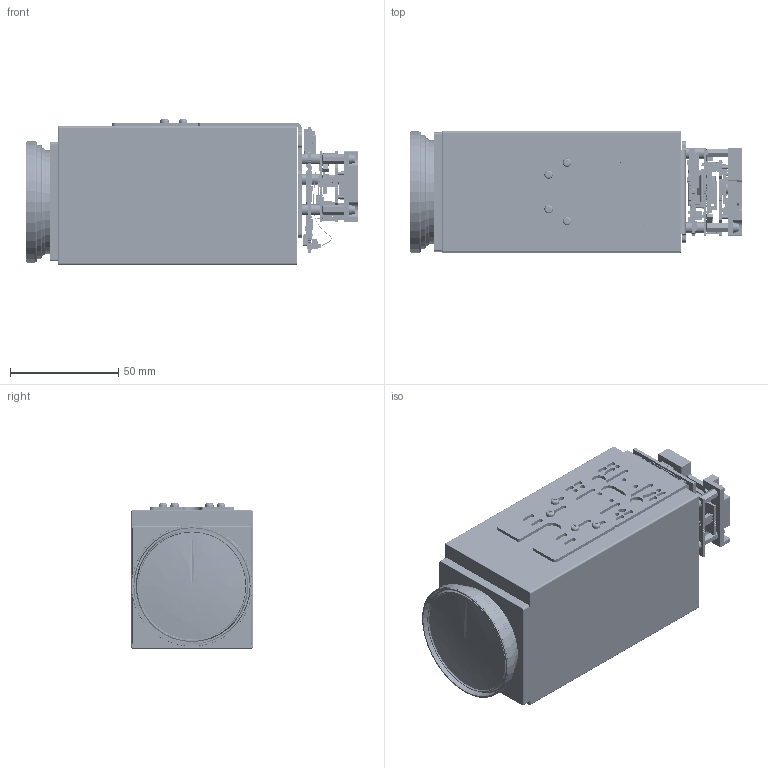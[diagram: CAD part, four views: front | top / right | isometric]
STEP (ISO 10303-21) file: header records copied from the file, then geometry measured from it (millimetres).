
FILE_DESCRIPTION( ( 'Unknown' ), '1' );
FILE_NAME( 'Q:/2003/Product3DCADModels/mm-ap29c01-0169-0101.stp', 'Unknown', ( 'Unknown' ), ( 'Unknown' ), 'PSStep 17.0.49', 'Unknown', ' ' );
FILE_SCHEMA( ( 'AUTOMOTIVE_DESIGN { 1 0 10303 214 1 1 1 1 }' ) );
Length unit declared in the file: millimetre
Products named in the file (689): Lead; Open_CASCADE_STEP_translator_6.8_1.2.1; Lead-2; Lead-3; Lead-6; Lead-7; Lead-5; Lead-1; Lead-4; 5993357248; body; Body; Open_CASCADE_STEP_translator_6.8_17.2.1; DEFAULT; DEFAULT-1; DEFAULT-2; 6453125152; Extruded; Pin_Shape; Open_CASCADE_STEP_translator_6.8_17.4.1; FRAME_RUG0010A; Open CASCADE STEP translator 6.8 16.15.1.1.1; Open CASCADE STEP translator 6.8 16.15.1.1.2; Open CASCADE STEP translator 6.8 16.15.1.1.3; Open CASCADE STEP translator 6.8 16.15.1.1.4; Open CASCADE STEP translator 6.8 16.15.1.1.5; Open CASCADE STEP translator 6.8 16.15.1.1.6; Open CASCADE STEP translator 6.8 16.15.1.1.7; Open CASCADE STEP translator 6.8 16.15.1.1.8; Open CASCADE STEP translator 6.8 16.15.1.1.9; Open CASCADE STEP translator 6.8 16.15.1.1.10; MYBSP01201ABF_step_Pin1; MYBSP01201ABF_step; User_Library-LED_1006_G; Grnn; Cut006; Cut005; #20139; Pad001; J107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
Assembly tree (1602 placements, depth 7):
  Assem1
    G-806-048H  x4
    G-875-322T  x3
    flexi-01
    EV9500L
    G-106-321A  x3
    heatsink-0389-02
    G-977-016Z  x3
    G-915-068V  x3
    G-080-752R  x3
    bracket-assy
      bracket-0378-02
      G-373-916V  x3
      G-513-075C  x3
    mm-ap29c01-0119-0301
      Board
        Open CASCADE STEP translator 6.8 16.1.1
          Open CASCADE STEP translator 6.8 16.1.1.1
      U9
        6292125808
          Thermal_Shape
          Open_CASCADE_STEP_translator_6.8_17.1
          Body
            Open_CASCADE_STEP_translator_6.8_17.2.1
          Pin_Shape  x24
            Open_CASCADE_STEP_translator_6.8_17.4.1
      R20
        6519727536
          Extruded
      L20
        CR1005-0402
        CR1005-0402
        CR1005-0402
        CR1005-0402
      C201
        6519727536
          Extruded
      C200
        6519727536
          Extruded
      C168
        CR1005-0402
        CR1005-0402
        CR1005-0402
        CR1005-0402
      U6
        6811100368
          Extruded
      R109
        6519727536
          Extruded
      R108
        6250716752
          Extruded
      C136
        6519727536
          Extruded
      R107
        6250716752
          Extruded
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Bounding box: 153.35 x 56 x 67.14 mm (x, y, z)
Volume: 451481.1 mm3; surface area: 79932.3 mm2
Topology: 1206 solids, 1207 shells, 19200 faces, 48357 edges, 31475 vertices
Faces by surface type: plane 15975, cylinder 2568, torus 176, sphere 176, revolution 140, cone 104, bspline 61
Full cylindrical faces by diameter (mm): 0.041 x1, 0.1 x184, 0.14 x1, 0.15 x1, 0.2 x2, 0.25 x1, 0.4 x2, 0.5 x1, 0.519 x1, 0.8 x8, 0.9 x8, 1 x1, 1.09 x1, 1.1 x2, 1.12 x2, 1.2 x2, 1.3 x2, 1.567 x3, 1.6 x4, 1.729 x8, 2 x12, 2.013 x4, 2.2 x50, 3.88 x7, 4.5 x3, 5 x10, 6.2 x2, 56 x1
Entity records: 371194 total; most frequent: CARTESIAN_POINT 50779, DIRECTION 48184, ORIENTED_EDGE 46393, EDGE_CURVE 23197, LINE 19245, VECTOR 19245, VERTEX_POINT 15353, AXIS2_PLACEMENT_3D 14452
